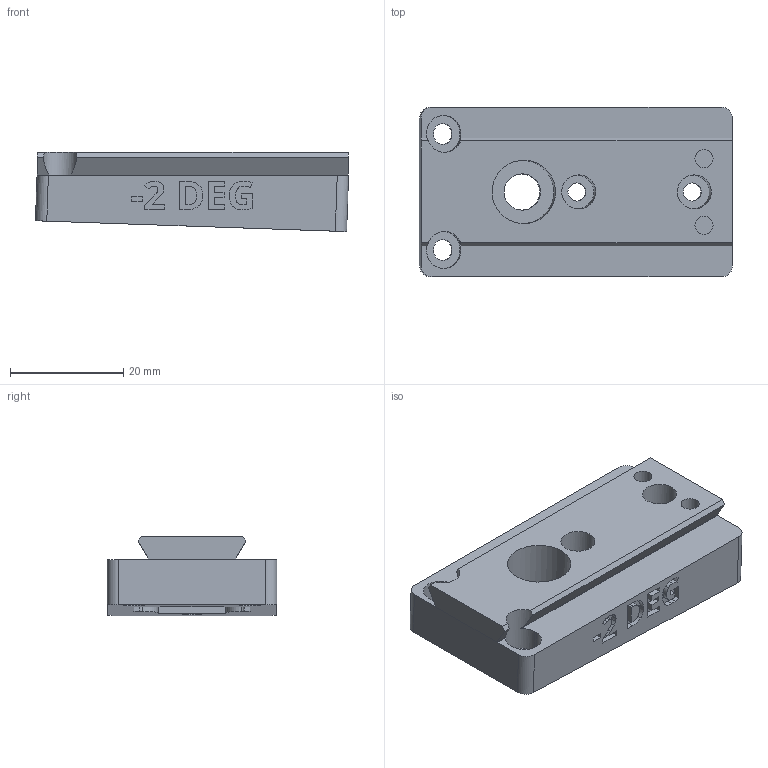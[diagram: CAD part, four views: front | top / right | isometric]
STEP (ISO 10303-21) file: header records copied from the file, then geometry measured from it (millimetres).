
FILE_DESCRIPTION(/* description */ ('STEP AP242 Edition 2','CAx-IF Rec.Pracs.---Representation and Presentation of Product Manufacturing Information (PMI)---4.0---2014-10-13','CAx-IF Rec.Pracs.---3D Tessellated Geometry---0.4---2014-09-14','2;1','CAx-IF Rec.Pracs.---User Defined Attributes---1.5---2016-08-15'),/* implementation_level */ '2;1');
FILE_NAME(/* name */ 'Camera Wedges - CAMERA MOUNTING WEDGE, NEG, -2 DEG',/* time_stamp */ '2026-07-08T20:35:13Z',/* author */ (''),/* organization */ (''),/* preprocessor_version */ 'ST-DEVELOPER v20',/* originating_system */ 'ONSHAPE BY PTC INC, 1.217',/* authorisation */ ' ');
FILE_SCHEMA (('AP242_MANAGED_MODEL_BASED_3D_ENGINEERING_MIM_LF { 1 0 10303 442 3 1 4 }'));
Length unit declared in the file: metre
Products named in the file (1): CAMERA MOUNTING WEDGE, NEG, -2 DEG
Bounding box: 55.31 x 30 x 13.99 mm (x, y, z)
Volume: 15742.7 mm3; surface area: 6900.6 mm2
Topology: 1 solids, 1 shells, 231 faces, 631 edges, 420 vertices
Faces by surface type: plane 135, cylinder 52, bspline 44
Full cylindrical faces by diameter (mm): 3.2 x4, 6 x2, 6.4 x1, 11.2 x1
Entity records: 7443 total; most frequent: CARTESIAN_POINT 1759, ORIENTED_EDGE 1246, DIRECTION 1027, EDGE_CURVE 623, VERTEX_POINT 420, LINE 419, VECTOR 419, AXIS2_PLACEMENT_3D 304
